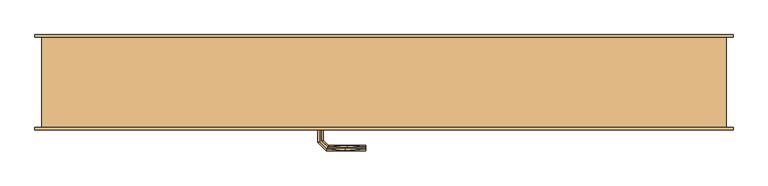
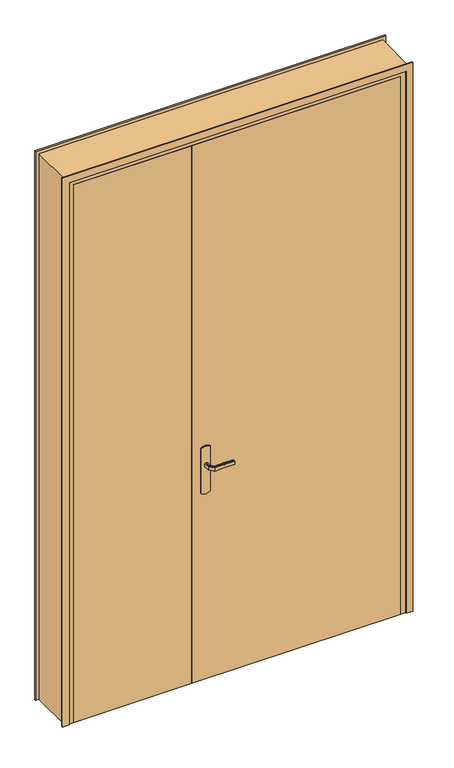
"""IFC4 building model written with IfcOpenShell, lengths in millimetres: door geometry, PP  chaufferie (1.80m x 2.50m)."""

from ifc_helpers import new_model, si_unit, frame, origin, origin_with_axes, place, context, project, spatial, polyline, outline, extrude, faceted_brep, source, transform, mapped, element, save


def door_0e1ff439(model_context):
    return source(origin(), model_context, "Body", "SolidModel", [
        extrude(outline(polyline([(0.0, 1595.0), (2550.0, 1595.0), (2550.0, 55.0), (0.0, 55.0), (0.0, 85.0), (2520.0, 85.0), (2520.0, 1565.0), (0.0, 1565.0), (0.0, 1595.0)])), frame((0.0, 200.0, 0.0), z_axis=(0.0, 1.0, 0.0), x_axis=(0.0, 0.0, 1.0)), (0.0, 0.0, 1.0), 5.0),
        extrude(outline(polyline([(0.0, 1595.0), (2550.0, 1595.0), (2550.0, 55.0), (0.0, 55.0), (0.0, 85.0), (2520.0, 85.0), (2520.0, 1565.0), (0.0, 1565.0), (0.0, 1595.0)])), frame((0.0, -5.0, 0.0), z_axis=(0.0, 1.0, 0.0), x_axis=(0.0, 0.0, 1.0)), (0.0, 0.0, 1.0), 5.0),
        faceted_brep([(1580.0, 0.0, 0.0), (1545.0, 0.0, 0.0), (1545.0, 40.0, 0.0), (1530.0, 40.0, 0.0), (1530.0, 200.0, 0.0), (1580.0, 200.0, 0.0), (1580.0, 200.0, 2535.0), (1580.0, 0.0, 2535.0), (1530.0, 200.0, 2485.0), (120.0, 200.0, 2485.0), (120.0, 200.0, 0.0), (70.0, 200.0, 0.0), (70.0, 200.0, 2535.0), (1530.0, 40.0, 2485.0), (1545.0, 40.0, 2500.0), (105.0, 40.0, 2500.0), (105.0, 40.0, 0.0), (120.0, 40.0, 0.0), (120.0, 40.0, 2485.0), (1545.0, 0.0, 2500.0), (70.0, 0.0, 2535.0), (70.0, 0.0, 0.0), (105.0, 0.0, 0.0), (105.0, 0.0, 2500.0)], [[[0, 1, 2, 3, 4, 5]], [[5, 6, 7, 0]], [[4, 8, 9, 10, 11, 12, 6, 5]], [[3, 13, 8, 4]], [[2, 14, 15, 16, 17, 18, 13, 3]], [[1, 19, 14, 2]], [[0, 7, 20, 21, 22, 23, 19, 1]], [[12, 11, 21, 20]], [[21, 11, 10, 17, 16, 22]], [[18, 17, 10, 9]], [[23, 22, 16, 15]], [[6, 12, 20, 7]], [[13, 18, 9, 8]], [[19, 23, 15, 14]]]),
        extrude(outline(polyline([(866.0039831, 695.3527618), (870.0, 705.0), (1080.0, 705.0), (1083.9960169, 695.3527618), (1085.3589838, 685.0), (1083.9960169, 674.6472382), (1080.0, 665.0), (870.0, 665.0), (866.0039831, 674.6472382), (864.6410162, 685.0), (866.0039831, 695.3527618)])), frame((0.0, -5.0, 0.0), z_axis=(0.0, 1.0, 0.0), x_axis=(0.0, 0.0, 1.0)), (0.0, 0.0, 1.0), 5.0),
        extrude(outline(polyline([(105.0, 0.0), (105.0, 40.0), (625.0, 40.0), (625.0, 0.0), (105.0, 0.0)])), origin_with_axes(), (0.0, 0.0, 1.0), 2500.0),
        faceted_brep([(682.9747013, 45.0, 1007.7804408), (679.0, 45.0, 1007.0), (679.0, 45.0, 993.0), (682.9747013, 45.0, 992.2195592), (687.0252987, 45.0, 992.2195592), (691.0, 45.0, 993.0), (691.0, 45.0, 1007.0), (687.0252987, 45.0, 1007.7804408), (691.0, 67.4852045, 993.0), (691.0, 67.4852045, 1007.0), (687.0252987, 69.1315797, 1007.7804408), (700.8389062, 82.9451872, 1007.7804408), (699.1610938, 86.9957845, 1007.7804408), (682.9747013, 70.8093921, 1007.7804408), (679.0, 72.4557673, 1007.0), (679.0, 72.4557673, 993.0), (682.9747013, 70.8093921, 992.2195592), (699.1610938, 86.9957845, 992.2195592), (700.8389062, 82.9451872, 992.2195592), (687.0252987, 69.1315797, 992.2195592), (702.4852814, 78.9704859, 993.0), (702.4852814, 78.9704859, 1007.0), (697.5147186, 90.9704859, 1007.0), (697.5147186, 90.9704859, 993.0), (785.0457837, 78.9704859, 993.0), (785.0457837, 82.9451872, 992.2195592), (785.0457837, 86.9957845, 992.2195592), (785.0457837, 90.9704859, 993.0), (785.0457837, 90.9704859, 1007.0), (785.0457837, 86.9957845, 1007.7804408), (785.0457837, 82.9451872, 1007.7804408), (785.0457837, 78.9704859, 1007.0), (743.7655206, 78.9704859, 993.0), (743.7655325, 78.9704859, 1007.0), (742.9423449, 84.9704859, 1007.8786868), (737.4452058, 90.9704859, 1007.0), (737.4452043, 90.9704859, 993.0), (742.9423451, 84.9704858, 992.1213132)], [[[0, 1, 2, 3, 4, 5, 6, 7]], [[6, 5, 8, 9]], [[9, 10, 7, 6]], [[10, 11, 12, 13, 0, 7]], [[13, 14, 1, 0]], [[2, 1, 14, 15]], [[15, 16, 3, 2]], [[16, 17, 18, 19, 4, 3]], [[19, 8, 5, 4]], [[9, 8, 20, 21]], [[21, 11, 10, 9]], [[12, 22, 14, 13]], [[15, 14, 22, 23]], [[23, 17, 16, 15]], [[18, 20, 8, 19]], [[24, 25, 26, 27, 28, 29, 30, 31]], [[21, 20, 32, 24, 31, 33]], [[33, 30, 34]], [[35, 34, 29]], [[21, 33, 11]], [[33, 31, 30]], [[28, 35, 29]], [[22, 12, 35]], [[35, 12, 34]], [[12, 11, 34]], [[11, 33, 34]], [[29, 34, 30]], [[22, 35, 28, 27, 36, 23]], [[36, 26, 37]], [[27, 26, 36]], [[17, 23, 36]], [[37, 32, 18]], [[20, 18, 32]], [[32, 25, 24]], [[26, 25, 37]], [[25, 32, 37]], [[17, 36, 37]], [[17, 37, 18]]]),
        extrude(outline(polyline([(625.0, 40.0), (1545.0, 40.0), (1545.0, 0.0), (625.0, 0.0), (625.0, 40.0)])), origin_with_axes(), (0.0, 0.0, 1.0), 2500.0),
        faceted_brep([(682.9747013, -5.0, 1007.7804408), (687.0252987, -5.0, 1007.7804408), (691.0, -5.0, 1007.0), (691.0, -5.0, 993.0), (687.0252987, -5.0, 992.2195592), (682.9747013, -5.0, 992.2195592), (679.0, -5.0, 993.0), (679.0, -5.0, 1007.0), (679.0, -32.6509507, 1007.0), (682.9747013, -31.0045755, 1007.7804408), (699.0235852, -47.0534593, 1007.7804408), (700.7013975, -43.002862, 1007.7804408), (687.0252987, -29.3267632, 1007.7804408), (691.0, -27.680388, 1007.0), (691.0, -27.680388, 993.0), (687.0252987, -29.3267632, 992.2195592), (700.7013975, -43.002862, 992.2195592), (699.0235852, -47.0534593, 992.2195592), (682.9747013, -31.0045755, 992.2195592), (679.0, -32.6509507, 993.0), (697.37721, -51.0281607, 1007.0), (702.3477727, -39.0281607, 1007.0), (702.3477727, -39.0281607, 993.0), (697.37721, -51.0281607, 993.0), (785.0186406, -51.0281607, 993.0), (785.0186406, -47.0534593, 992.2195592), (785.0186406, -43.002862, 992.2195592), (785.0186406, -39.0281607, 993.0), (785.0186406, -39.0281607, 1007.0), (785.0186406, -43.002862, 1007.7804408), (785.0186406, -47.0534593, 1007.7804408), (785.0186406, -51.0281607, 1007.0), (737.3076972, -51.0281607, 1007.0), (742.8600191, -45.0281607, 1007.8786868), (743.6832067, -39.0281607, 1007.0), (743.6832067, -39.0281607, 993.0), (742.8600189, -45.0281608, 992.1213132), (737.3077002, -51.0281607, 993.0)], [[[0, 1, 2, 3, 4, 5, 6, 7]], [[8, 9, 0, 7]], [[9, 10, 11, 12, 1, 0]], [[12, 13, 2, 1]], [[3, 2, 13, 14]], [[14, 15, 4, 3]], [[15, 16, 17, 18, 5, 4]], [[18, 19, 6, 5]], [[7, 6, 19, 8]], [[20, 10, 9, 8]], [[11, 21, 13, 12]], [[14, 13, 21, 22]], [[22, 16, 15, 14]], [[17, 23, 19, 18]], [[8, 19, 23, 20]], [[24, 25, 26, 27, 28, 29, 30, 31]], [[32, 30, 33]], [[31, 30, 32]], [[10, 20, 32]], [[33, 34, 11]], [[21, 11, 34]], [[34, 29, 28]], [[30, 29, 33]], [[29, 34, 33]], [[10, 32, 33]], [[10, 33, 11]], [[22, 21, 34, 28, 27, 35]], [[35, 26, 36]], [[37, 36, 25]], [[22, 35, 16]], [[35, 27, 26]], [[24, 37, 25]], [[23, 17, 37]], [[37, 17, 36]], [[17, 16, 36]], [[16, 35, 36]], [[25, 36, 26]], [[20, 23, 37, 24, 31, 32]]]),
        extrude(outline(polyline([(866.0039831, 695.3527618), (870.0, 705.0), (1080.0, 705.0), (1083.9960169, 695.3527618), (1085.3589838, 685.0), (1083.9960169, 674.6472382), (1080.0, 665.0), (870.0, 665.0), (866.0039831, 674.6472382), (864.6410162, 685.0), (866.0039831, 695.3527618)])), frame((0.0, 40.0, 0.0), z_axis=(0.0, 1.0, 0.0), x_axis=(0.0, 0.0, 1.0)), (0.0, 0.0, 1.0), 5.0),
    ])


if __name__ == "__main__":
    model = new_model("IFC4")
    model_context = context("Model", 3, world=origin())
    ifc_project = project(units=[si_unit("LENGTHUNIT", "METRE", prefix="MILLI")], contexts=[model_context])
    site = spatial("IfcSite", under=ifc_project)
    building = spatial("IfcBuilding", under=site)
    placement = place(None, origin())
    door_shape = door_0e1ff439(model_context)
    element("IfcDoor", 1, ObjectType="PP  chaufferie (1.80m x 2.50m)", at=placement, inside=building, context=model_context, shape_type="MappedRepresentation", body=[
        mapped(door_shape, transform((0.0, 0.0, 0.0), x_axis=(1.0, 0.0, 0.0), y_axis=(0.0, 1.0, 0.0), z_axis=(0.0, 0.0, 1.0))),
    ])
    save(model, "model.ifc")
